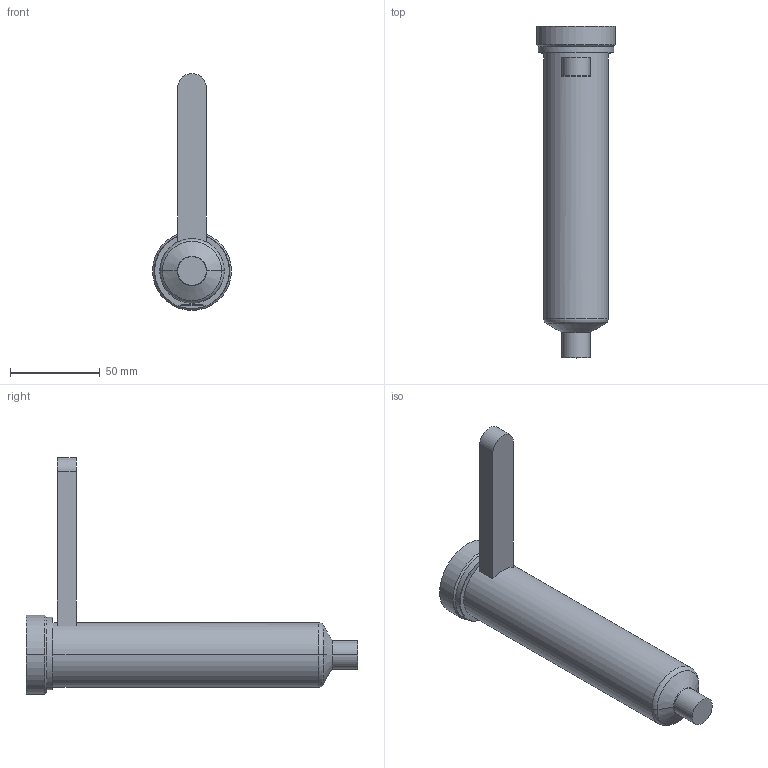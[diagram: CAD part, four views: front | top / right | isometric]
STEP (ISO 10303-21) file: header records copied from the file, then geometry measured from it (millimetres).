
FILE_DESCRIPTION((''),'2;1');
FILE_NAME('EO12_VG-FBE_STD_160_COT','2024-02-19T14:05:19',('sundharh'),(''),'CREO PARAMETRIC BY PTC INC, 2023154','CREO PARAMETRIC BY PTC INC, 2023154','');
FILE_SCHEMA(('CONFIG_CONTROL_DESIGN'));
Length unit declared in the file: millimetre
Products named in the file (1): EO12_VG-FBE_STD_160_COT
Bounding box: 44 x 185 x 132 mm (x, y, z)
Volume: 196117.5 mm3; surface area: 27561.7 mm2
Topology: 1 solids, 1 shells, 31 faces, 67 edges, 40 vertices
Faces by surface type: cylinder 11, plane 9, torus 7, cone 4
Entity records: 951 total; most frequent: CARTESIAN_POINT 218, DIRECTION 159, ORIENTED_EDGE 134, AXIS2_PLACEMENT_3D 67, EDGE_CURVE 67, VERTEX_POINT 40, CIRCLE 36, EDGE_LOOP 33
